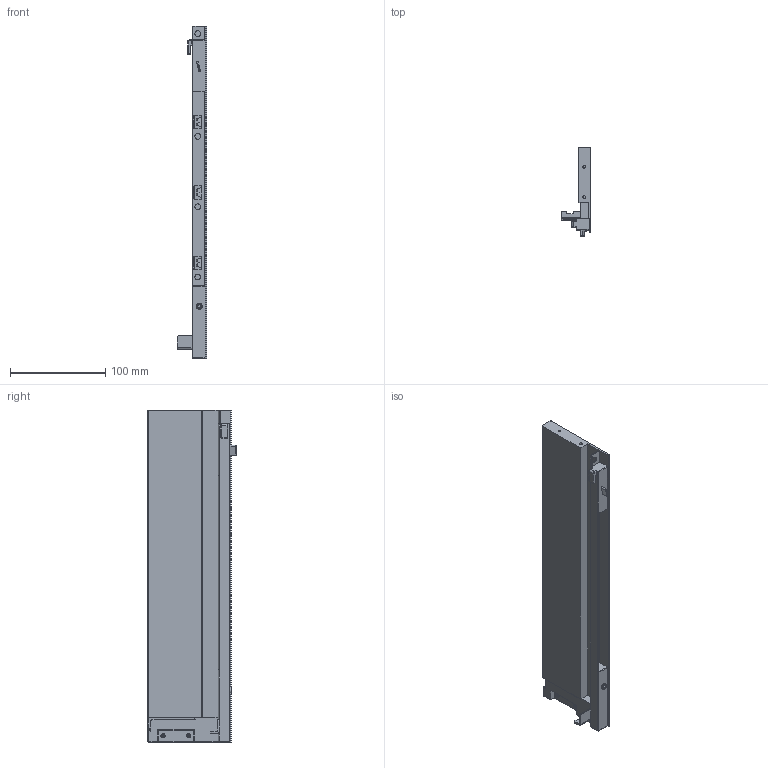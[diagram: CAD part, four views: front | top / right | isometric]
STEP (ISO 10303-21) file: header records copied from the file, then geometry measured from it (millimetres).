
FILE_DESCRIPTION (( 'STEP AP203' ), '1' );
FILE_NAME ('HT113501-R.STEP', '2021-03-16T02:15:24', ( 'Users' ), ( 'Microsoft' ), 'SwSTEP 2.0', 'SolidWorks 2018', '' );
FILE_SCHEMA (( 'CONFIG_CONTROL_DESIGN' ));
Length unit declared in the file: millimetre
Products named in the file (1): HT113501-R
Bounding box: 31.3 x 93 x 349 mm (x, y, z)
Volume: 305081.4 mm3; surface area: 88555.6 mm2
Topology: 1 solids, 8 shells, 402 faces, 1019 edges, 633 vertices
Faces by surface type: plane 199, cylinder 139, torus 29, bspline 23, cone 6, sphere 6
Entity records: 12556 total; most frequent: CARTESIAN_POINT 2954, ORIENTED_EDGE 2020, DIRECTION 1947, EDGE_CURVE 1010, AXIS2_PLACEMENT_3D 660, VERTEX_POINT 633, VECTOR 627, LINE 627
